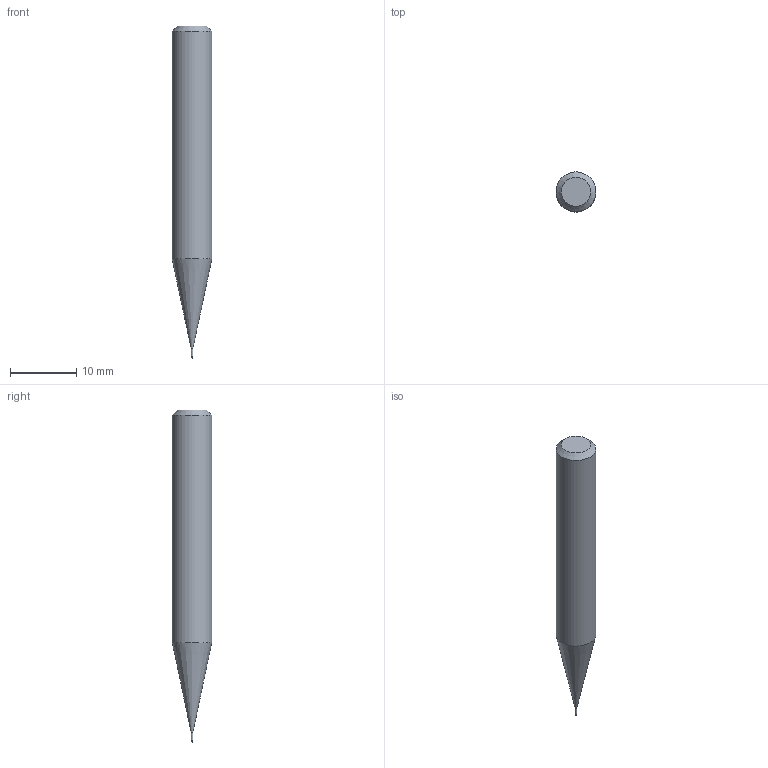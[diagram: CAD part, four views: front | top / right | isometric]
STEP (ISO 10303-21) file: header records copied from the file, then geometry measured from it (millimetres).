
FILE_DESCRIPTION((''),'2;1');
FILE_NAME('C:\Users\nsx150\AppData\Local\Temp\Mastercam 2021\3SYKECWX22\TEMP.step','2021-04-22T09:59:19',(''),(''),'STEP Write','Mastercam 2021 ... CNC Software, Inc.','');
FILE_SCHEMA(('AUTOMOTIVE_DESIGN'));
Length unit declared in the file: millimetre
Products named in the file (1): None
Bounding box: 6 x 6 x 50 mm (x, y, z)
Volume: 1118.5 mm3; surface area: 816.3 mm2
Topology: 2 solids, 2 shells, 9 faces, 14 edges, 8 vertices
Faces by surface type: plane 3, cylinder 3, cone 2, sphere 1
Full cylindrical faces by diameter (mm): 0.28 x1, 0.3 x1, 6 x1
Entity records: 211 total; most frequent: DIRECTION 36, CARTESIAN_POINT 25, AXIS2_PLACEMENT_3D 18, ORIENTED_EDGE 14, EDGE_LOOP 14, STYLED_ITEM 12, ADVANCED_FACE 9, FACE_BOUND 8
